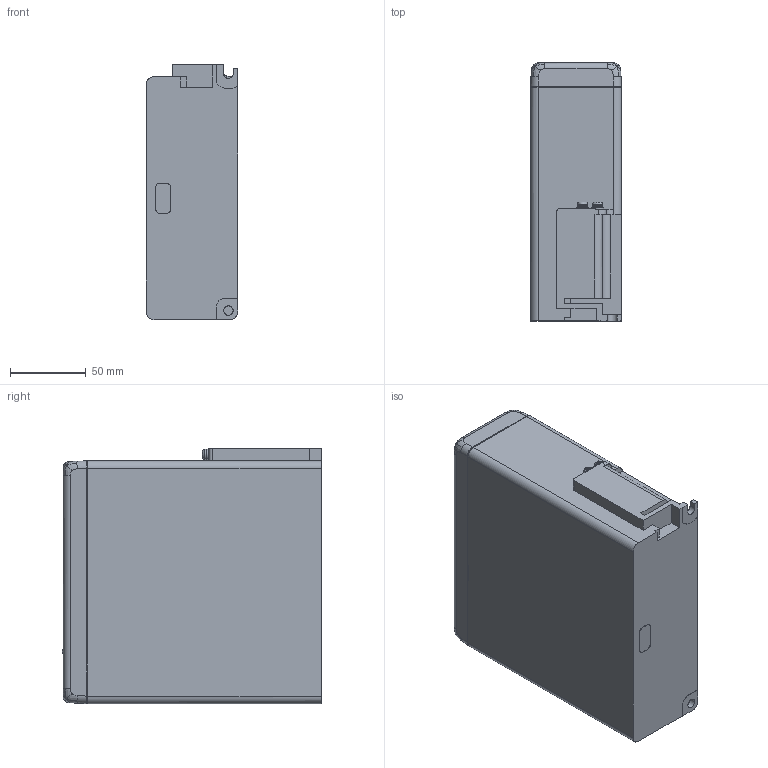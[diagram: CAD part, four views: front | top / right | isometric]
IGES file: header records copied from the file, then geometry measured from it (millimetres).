
Global section: file name: Iges File Name specified; native system: Autodesk Inventor 2013; preprocessor: AutoDesk Inventor Iges Exporter R2013; author: 123; date: 20130626.134639; units: millimetre
Bounding box: 60 x 170.7 x 168.2 mm (x, y, z)
Volume: 1616319.5 mm3; surface area: 96309.4 mm2
Topology: 1 solids, 1 shells, 281 faces, 754 edges, 508 vertices
Faces by surface type: bspline 281
